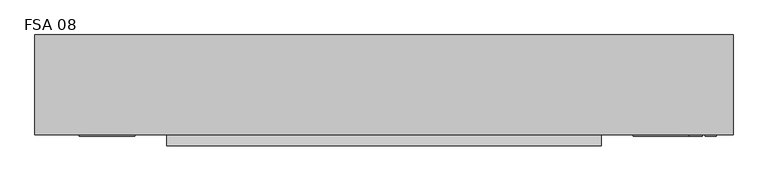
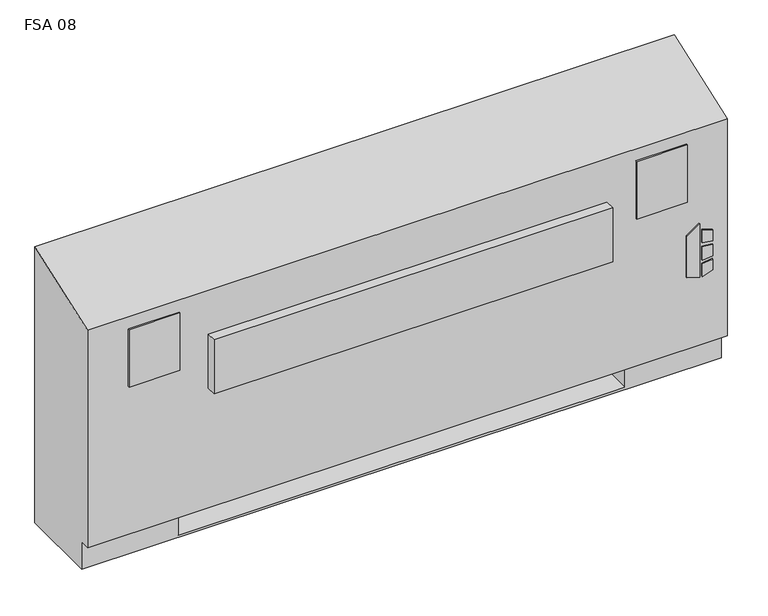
"""IFC4 building model written with IfcOpenShell, lengths in millimetres: proxy geometry, Vertical_Fan_Coil_Unit_-_FSA_-_IEC_-_4-Pipe_FS-FR_LH_2022 : FSA 08."""

import ifcopenshell
import ifcopenshell.guid

model = None  # the IFC model being written
_history = None  # IfcOwnerHistory: only IFC2X3 demands one
_inside = {}  # id of a spatial element -> (the spatial element, [elements in it])
_under = {}  # id of a project, library or spatial element -> (it, [spatial elements below it])
_declared = {}  # id of a project -> (the project, [libraries it declares])
_typed = {}  # id of a type object -> (the type object, [elements of that type])
_made_of = {}  # id of a material, layer set ... -> (it, [elements and type objects made of it])


def new_model(schema):
    """Start an empty IFC model of exactly this schema.

    Asked for "IFC4X3", IfcOpenShell would pick the latest addendum, in which some entities
    have other attributes; the version numbers below select the first issue.
    IFC2X3 requires an IfcOwnerHistory on every rooted entity: one is made here for all.
    """
    global model, _history
    if schema == "IFC4X3":
        model = ifcopenshell.file(schema_version=(4, 3, 0, 0))
    else:
        model = ifcopenshell.file(schema=schema)
    _inside.clear()
    _under.clear()
    _declared.clear()
    _typed.clear()
    _made_of.clear()
    _history = None
    if model.schema == "IFC2X3":
        org = make("IfcOrganization", Name="unknown")
        user = make(
            "IfcPersonAndOrganization",
            ThePerson=make("IfcPerson", FamilyName="unknown"),
            TheOrganization=org,
        )
        app = make(
            "IfcApplication",
            ApplicationDeveloper=org,
            Version="unknown",
            ApplicationFullName="unknown",
            ApplicationIdentifier="unknown",
        )
        _history = make(
            "IfcOwnerHistory",
            OwningUser=user,
            OwningApplication=app,
            ChangeAction="ADDED",
            CreationDate=0,
        )
    return model


def make(cls, **values):
    """One entity of the class cls with the attributes given. An attribute that is None is left unset."""
    return model.create_entity(
        cls, **{name: value for name, value in values.items() if value is not None}
    )


def rooted(cls, **values):
    """An entity with a GlobalId (a new one), such as an element, a storey or a relation."""
    return make(cls, GlobalId=ifcopenshell.guid.new(), OwnerHistory=_history, **values)


def si_unit(unit_type, name, prefix=None):
    """IfcSIUnit, for example si_unit("LENGTHUNIT", "METRE", prefix="MILLI")."""
    return make("IfcSIUnit", UnitType=unit_type, Prefix=prefix, Name=name)


def assignment(units):
    """IfcUnitAssignment: the units of a project."""
    return None if units is None else make("IfcUnitAssignment", Units=units)


def point(xyz):
    """IfcCartesianPoint."""
    return None if xyz is None else make("IfcCartesianPoint", Coordinates=xyz)


def direction(xyz):
    """IfcDirection."""
    return None if xyz is None else make("IfcDirection", DirectionRatios=xyz)


def frame(location, z_axis=None, x_axis=None):
    """IfcAxis2Placement3D, a coordinate frame: its origin and axes. An axis left out is left unset."""
    return make(
        "IfcAxis2Placement3D",
        Location=point(location),
        Axis=direction(z_axis),
        RefDirection=direction(x_axis),
    )


def frame_2d(location, x_axis=None):
    """IfcAxis2Placement2D, a coordinate frame in the plane: its origin and x axis."""
    return make(
        "IfcAxis2Placement2D", Location=point(location), RefDirection=direction(x_axis)
    )


def origin():
    """The frame at (0, 0, 0) with its axes left unset."""
    return frame((0.0, 0.0, 0.0))


def place(relative_to, where):
    """IfcLocalPlacement: puts the frame where relative to a parent placement (None: the world)."""
    return make(
        "IfcLocalPlacement", PlacementRelTo=relative_to, RelativePlacement=where
    )


def context(
    kind, dimensions, precision=None, world=None, true_north=None, identifier=None
):
    """IfcGeometricRepresentationContext, for example the 3D "Model" context."""
    return make(
        "IfcGeometricRepresentationContext",
        ContextIdentifier=identifier,
        ContextType=kind,
        CoordinateSpaceDimension=dimensions,
        Precision=precision,
        WorldCoordinateSystem=world,
        TrueNorth=true_north,
    )


def project(units=None, contexts=None):
    """IfcProject with its units and contexts."""
    return rooted(
        "IfcProject",
        Name="project",
        RepresentationContexts=contexts,
        UnitsInContext=assignment(units),
    )


def spatial(cls, under=None, at=None, **own):
    """A site, building, storey or space (cls), placed at a placement, below another one or the project."""
    s = rooted(cls, ObjectPlacement=at, **own)
    if under is not None:
        _under.setdefault(under.id(), (under, []))[1].append(s)
    return s


def polyline(points):
    """IfcPolyline through the points."""
    return make("IfcPolyline", Points=[point(p) for p in points])


def circle_curve(where, radius):
    """IfcCircle in the frame where."""
    return make("IfcCircle", Position=where, Radius=radius)


def trimmed(basis, trim1, trim2, sense, master):
    """IfcTrimmedCurve: the piece of a basis curve between two trims."""
    return make(
        "IfcTrimmedCurve",
        BasisCurve=basis,
        Trim1=trim1,
        Trim2=trim2,
        SenseAgreement=sense,
        MasterRepresentation=master,
    )


def segment(curve, same_sense, transition):
    """IfcCompositeCurveSegment."""
    return make(
        "IfcCompositeCurveSegment",
        Transition=transition,
        SameSense=same_sense,
        ParentCurve=curve,
    )


def composite_curve(segments, self_intersect=None):
    """IfcCompositeCurve: segments joined end to end."""
    return make("IfcCompositeCurve", Segments=segments, SelfIntersect=self_intersect)


def outline(outer, holes=None, kind="AREA"):
    """IfcArbitraryClosedProfileDef: a profile drawn as a closed curve; with holes, ...WithVoids."""
    if holes is None:
        return make("IfcArbitraryClosedProfileDef", ProfileType=kind, OuterCurve=outer)
    return make(
        "IfcArbitraryProfileDefWithVoids",
        ProfileType=kind,
        OuterCurve=outer,
        InnerCurves=holes,
    )


def extrude(swept, where, along, depth):
    """IfcExtrudedAreaSolid: the profile swept, set in the frame where, extruded along a direction by depth."""
    return make(
        "IfcExtrudedAreaSolid",
        SweptArea=swept,
        Position=where,
        ExtrudedDirection=direction(along),
        Depth=depth,
    )


def shape(context_of_items, identifier, shape_type, items):
    """IfcShapeRepresentation: the items that make up one representation, for example the "Body"."""
    return make(
        "IfcShapeRepresentation",
        ContextOfItems=context_of_items,
        RepresentationIdentifier=identifier,
        RepresentationType=shape_type,
        Items=items,
    )


def source(mapping_origin, context_of_items, identifier, shape_type, items):
    """IfcRepresentationMap: a shape defined once, which mapped items show again and again."""
    return make(
        "IfcRepresentationMap",
        MappingOrigin=mapping_origin,
        MappedRepresentation=shape(context_of_items, identifier, shape_type, items),
    )


def transform(
    local_origin,
    x_axis=None,
    y_axis=None,
    z_axis=None,
    scale=None,
    scale2=None,
    scale3=None,
    uniform=True,
):
    """IfcCartesianTransformationOperator3D, or its non-uniform kind. x_axis, y_axis, z_axis: its Axis1, 2, 3."""
    if uniform:
        return make(
            "IfcCartesianTransformationOperator3D",
            Axis1=direction(x_axis),
            Axis2=direction(y_axis),
            LocalOrigin=point(local_origin),
            Scale=scale,
            Axis3=direction(z_axis),
        )
    return make(
        "IfcCartesianTransformationOperator3DnonUniform",
        Axis1=direction(x_axis),
        Axis2=direction(y_axis),
        LocalOrigin=point(local_origin),
        Scale=scale,
        Axis3=direction(z_axis),
        Scale2=scale2,
        Scale3=scale3,
    )


def mapped(mapping_source, mapping_target):
    """IfcMappedItem: shows the shape of a source again, moved by a transform."""
    return make(
        "IfcMappedItem", MappingSource=mapping_source, MappingTarget=mapping_target
    )


def made_of(thing, what):
    """Note that an element or type object is made of a material, layer set ...; save() writes the relation."""
    if what is not None:
        _made_of.setdefault(what.id(), (what, []))[1].append(thing)
    return thing


def element(
    cls,
    number,
    at=None,
    inside=None,
    cuts=None,
    type_object=None,
    material=None,
    context=None,
    identifier="Body",
    shape_type=None,
    held_by="IfcProductDefinitionShape",
    body=None,
    shapes=None,
    **own,
):
    """One element of the class cls, such as IfcWall. Its Tag is "e" and its number.

    at: its placement. inside: the storey or other place that contains it. cuts: it is an
    opening in that element (IfcRelVoidsElement). A single representation is given by context,
    identifier, shape_type and body (its items); several are given by shapes. held_by: the class
    of the entity that holds the representations. save() writes the other relations.
    """
    e = rooted(cls, Tag="e%d" % number, ObjectPlacement=at, **own)
    if body is not None:
        shapes = [shape(context, identifier, shape_type, body)]
    if shapes is not None:
        e.Representation = make(held_by, Representations=shapes)
    if inside is not None:
        _inside.setdefault(inside.id(), (inside, []))[1].append(e)
    if cuts is not None:
        rooted(
            "IfcRelVoidsElement", RelatingBuildingElement=cuts, RelatedOpeningElement=e
        )
    if type_object is not None:
        _typed.setdefault(type_object.id(), (type_object, []))[1].append(e)
    return made_of(e, material)


def aggregate(whole, parts):
    """IfcRelAggregates: a whole, such as a stair, and the parts it consists of."""
    return rooted("IfcRelAggregates", RelatingObject=whole, RelatedObjects=parts)


def save(model, path):
    """Write the relations noted so far, then the file.

    IfcRelAggregates (storeys below a building ...), IfcRelContainedInSpatialStructure (elements
    in a storey), IfcRelDefinesByType, IfcRelAssociatesMaterial and IfcRelDeclares: one each for
    every whole, place, type object, material and project.
    """
    for whole, parts in _under.values():
        aggregate(whole, parts)
    for where, things in _inside.values():
        rooted(
            "IfcRelContainedInSpatialStructure",
            RelatedElements=things,
            RelatingStructure=where,
        )
    for kind, things in _typed.values():
        rooted("IfcRelDefinesByType", RelatedObjects=things, RelatingType=kind)
    for what, things in _made_of.values():
        rooted("IfcRelAssociatesMaterial", RelatedObjects=things, RelatingMaterial=what)
    for by, libraries in _declared.values():
        rooted("IfcRelDeclares", RelatingContext=by, RelatedDefinitions=libraries)
    model.write(path)


def plane_surface(at):
    """IfcPlane: the flat surface through the origin of the frame at, square to its z axis."""
    return make("IfcPlane", Position=at)


def revolved_surface(curve, axis_point, axis_direction):
    """IfcSurfaceOfRevolution: the curve turned about the line through axis_point along axis_direction."""
    return make(
        "IfcSurfaceOfRevolution",
        SweptCurve=make("IfcArbitraryOpenProfileDef", ProfileType="CURVE", Curve=curve),
        AxisPosition=make("IfcAxis1Placement", Location=point(axis_point), Axis=direction(axis_direction)),
    )


def advanced_brep(points, edges, surfaces, faces):
    """IfcAdvancedBrep: a solid bounded by faces that lie on surfaces and meet in shared edges.

    An edge is (start, end): straight between two places in points (the first is 0);
    or (start, end, curve); or (start, end, curve, False) where it runs against its curve.
    A face is (place in surfaces, loops), or (place, loops, False) where it looks against
    its surface's normal. A loop lists edges by number (the first is 1), with a minus sign
    where the edge is run from its end to its start. The first loop is the outer one.
    """
    corners = [point(p) for p in points]
    vertices = [make("IfcVertexPoint", VertexGeometry=c) for c in corners]
    made = []
    for start, end, *more in edges:
        made.append(
            make(
                "IfcEdgeCurve",
                EdgeStart=vertices[start],
                EdgeEnd=vertices[end],
                EdgeGeometry=more[0] if more else make("IfcPolyline", Points=[corners[start], corners[end]]),
                SameSense=more[1] if len(more) > 1 else True,
            )
        )
    hull = []
    for where, loops, *sense in faces:
        bounds = []
        for j, loop in enumerate(loops):
            ring = [make("IfcOrientedEdge", EdgeElement=made[abs(k) - 1], Orientation=k > 0) for k in loop]
            bounds.append(
                make(
                    "IfcFaceOuterBound" if j == 0 else "IfcFaceBound",
                    Bound=make("IfcEdgeLoop", EdgeList=ring),
                    Orientation=True,
                )
            )
        hull.append(make("IfcAdvancedFace", Bounds=bounds, FaceSurface=surfaces[where], SameSense=sense[0] if sense else True))
    return make("IfcAdvancedBrep", Outer=make("IfcClosedShell", CfsFaces=hull))


def fsa_08_aebe8db0(model_context):
    return source(origin(), model_context, "Body", "SolidModel", [
        extrude(outline(polyline([(263.9480703, 849.3868862), (254.0, 881.5602728), (396.1709244, 881.5602728), (373.1489183, 849.3868862), (263.9480703, 849.3868862)])), frame((0.0, 12.7, 0.0), z_axis=(0.0, 1.0, 0.0), x_axis=(0.0, 0.0, 1.0)), (0.0, 0.0, 1.0), 3.175),
        extrude(outline(polyline([(342.9473557, 888.3186058), (339.7449632, 914.4), (368.9738042, 914.4), (377.0382193, 888.3186058), (342.9473557, 888.3186058)])), frame((0.0, 12.7, 0.0), z_axis=(0.0, 1.0, 0.0), x_axis=(0.0, 0.0, 1.0)), (0.0, 0.0, 1.0), 3.175),
        extrude(outline(polyline([(291.0838288, 914.4), (287.4183279, 888.3186058), (254.0, 888.3186058), (262.6342372, 914.4), (291.0838288, 914.4)])), frame((0.0, 12.7, 0.0), z_axis=(0.0, 1.0, 0.0), x_axis=(0.0, 0.0, 1.0)), (0.0, 0.0, 1.0), 3.175),
        extrude(outline(polyline([(330.3989903, 914.4), (332.6808166, 888.3186058), (296.7432681, 888.3186058), (299.4845331, 914.4), (330.3989903, 914.4)])), frame((0.0, 12.7, 0.0), z_axis=(0.0, 1.0, 0.0), x_axis=(0.0, 0.0, 1.0)), (0.0, 0.0, 1.0), 3.175),
        extrude(outline(polyline([(831.85, 223.266), (831.85, 81.534), (711.2, 81.534), (711.2, 223.266), (831.85, 223.266)])), frame((0.0, 0.0, 327.025), z_axis=(0.0, 0.0, 1.0), x_axis=(1.0, 0.0, 0.0)), (0.0, 0.0, 1.0), 260.35),
        extrude(outline(polyline([(-419.1, 12.7), (-546.1, 12.7), (-546.1, 15.875), (-419.1, 15.875), (-419.1, 12.7)])), frame((0.0, 0.0, 463.55), z_axis=(0.0, 0.0, 1.0), x_axis=(1.0, 0.0, 0.0)), (0.0, 0.0, 1.0), 152.4),
        extrude(outline(polyline([(850.9, 12.7), (723.9, 12.7), (723.9, 15.875), (850.9, 15.875), (850.9, 12.7)])), frame((0.0, 0.0, 463.55), z_axis=(0.0, 0.0, 1.0), x_axis=(1.0, 0.0, 0.0)), (0.0, 0.0, 1.0), 152.4),
        extrude(outline(composite_curve([segment(trimmed(circle_curve(frame_2d((-469.9, 130.175)), 9.525), [point((-479.425, 130.175))], [point((-460.375, 130.175))], False, "CARTESIAN"), True, "CONTINUOUS"), segment(trimmed(circle_curve(frame_2d((-469.9, 130.175)), 9.525), [point((-460.375, 130.175))], [point((-479.425, 130.175))], False, "CARTESIAN"), True, "CONTINUOUS")], self_intersect=False)), frame((0.0, 0.0, 101.6), z_axis=(0.0, 0.0, 1.0), x_axis=(1.0, 0.0, 0.0)), (0.0, 0.0, 1.0), 25.4),
        extrude(outline(polyline([(-571.5, 63.5), (-571.5, 196.85), (-406.4, 196.85), (-406.4, 63.5), (-571.5, 63.5)])), frame((0.0, 0.0, 127.0), z_axis=(0.0, 0.0, 1.0), x_axis=(1.0, 0.0, 0.0)), (0.0, 0.0, 1.0), 50.8),
        extrude(outline(polyline([(650.875, -9.525), (-346.075, -9.525), (-346.075, 15.875), (650.875, 15.875), (650.875, -9.525)])), frame((0.0, 0.0, 389.3009245), z_axis=(0.0, 0.0, 1.0), x_axis=(1.0, 0.0, 0.0)), (0.0, 0.0, 1.0), 142.875),
        extrude(outline(composite_curve([segment(trimmed(circle_curve(frame_2d((109.0168, 457.2)), 7.9375), [point((109.0168, 465.1375))], [point((109.0168, 449.2625))], False, "CARTESIAN"), True, "CONTINUOUS"), segment(trimmed(circle_curve(frame_2d((109.0168, 457.2)), 7.9375), [point((109.0168, 449.2625))], [point((109.0168, 465.1375))], False, "CARTESIAN"), True, "CONTINUOUS")], self_intersect=False)), frame((-457.2, 0.0, 0.0), z_axis=(1.0, 0.0, 0.0), x_axis=(0.0, 1.0, 0.0)), (0.0, 0.0, 1.0), 50.8),
        extrude(outline(composite_curve([segment(trimmed(circle_curve(frame_2d((172.085, 460.0194)), 7.9375), [point((172.085, 467.9569))], [point((172.085, 452.0819))], False, "CARTESIAN"), True, "CONTINUOUS"), segment(trimmed(circle_curve(frame_2d((172.085, 460.0194)), 7.9375), [point((172.085, 452.0819))], [point((172.085, 467.9569))], False, "CARTESIAN"), True, "CONTINUOUS")], self_intersect=False)), frame((-457.2, 0.0, 0.0), z_axis=(1.0, 0.0, 0.0), x_axis=(0.0, 1.0, 0.0)), (0.0, 0.0, 1.0), 50.8),
        extrude(outline(composite_curve([segment(trimmed(circle_curve(frame_2d((53.975, 416.56)), 7.9502), [point((53.975, 424.5102))], [point((53.975, 408.6098))], False, "CARTESIAN"), True, "CONTINUOUS"), segment(trimmed(circle_curve(frame_2d((53.975, 416.56)), 7.9502), [point((53.975, 408.6098))], [point((53.975, 424.5102))], False, "CARTESIAN"), True, "CONTINUOUS")], self_intersect=False)), frame((-457.2, 0.0, 0.0), z_axis=(1.0, 0.0, 0.0), x_axis=(0.0, 1.0, 0.0)), (0.0, 0.0, 1.0), 50.8),
        extrude(outline(composite_curve([segment(trimmed(circle_curve(frame_2d((130.175, 554.99)), 7.9502), [point((130.175, 562.9402))], [point((130.175, 547.0398))], False, "CARTESIAN"), True, "CONTINUOUS"), segment(trimmed(circle_curve(frame_2d((130.175, 554.99)), 7.9502), [point((130.175, 547.0398))], [point((130.175, 562.9402))], False, "CARTESIAN"), True, "CONTINUOUS")], self_intersect=False)), frame((-457.2, 0.0, 0.0), z_axis=(1.0, 0.0, 0.0), x_axis=(0.0, 1.0, 0.0)), (0.0, 0.0, 1.0), 50.8),
        advanced_brep(
        [(-647.7, 244.475, 0.0), (952.5, 244.475, 0.0), (952.5, 41.275, 0.0), (-647.7, 41.275, 0.0), (-647.7, 244.475, 730.25), (952.5, 244.475, 730.25), (711.2, 244.475, 73.025), (939.8, 244.475, 73.025), (939.8, 244.475, 654.05), (711.2, 244.475, 654.05), (711.2, 244.475, 414.8650565), (739.775, 244.475, 414.8650565), (739.775, 244.475, 385.2349435), (711.2, 244.475, 385.2349435), (711.2, 244.475, 287.3375), (739.775, 244.475, 287.3375), (739.775, 244.475, 258.7625), (711.2, 244.475, 258.7625), (711.2, 244.475, 141.2875), (739.775, 244.475, 141.2875), (739.775, 244.475, 112.7125), (711.2, 244.475, 112.7125), (-406.4, 244.475, 654.05), (-635.0, 244.475, 654.05), (-635.0, 244.475, 73.025), (-406.4, 244.475, 73.025), (-406.4, 244.475, 112.7125), (-434.975, 244.475, 112.7125), (-434.975, 244.475, 141.2875), (-406.4, 244.475, 141.2875), (-406.4, 244.475, 258.7625), (-434.975, 244.475, 258.7625), (-434.975, 244.475, 287.3375), (-406.4, 244.475, 287.3375), (-406.4, 244.475, 385.2349435), (-434.975, 244.475, 385.2349435), (-434.975, 244.475, 414.8650565), (-406.4, 244.475, 414.8650565), (729.4626, 244.475, 127.0), (718.3374, 244.475, 127.0), (729.4626, 244.475, 400.05), (718.3374, 244.475, 400.05), (729.4626, 244.475, 273.05), (718.3374, 244.475, 273.05), (-413.5374, 244.475, 127.0), (-424.6626, 244.475, 127.0), (-413.5374, 244.475, 273.05), (-424.6626, 244.475, 273.05), (-413.5374, 244.475, 400.05), (-424.6626, 244.475, 400.05), (-647.7, 41.275, 73.025), (-647.7, 15.875, 73.025), (-647.7, 15.875, 647.7), (952.5, 15.875, 73.025), (952.5, 15.875, 647.7), (952.5, 41.275, 73.025), (-406.4, 41.275, 73.025), (-406.4, 225.425, 73.025), (711.2, 225.425, 73.025), (711.2, 41.275, 73.025), (711.2, 41.275, 6.35), (-406.4, 41.275, 6.35), (711.2, 41.275, 654.05), (939.8, 41.275, 654.05), (939.8, 41.275, 73.025), (711.2, 41.275, 73.025), (-406.4, 41.275, 654.05), (-406.4, 41.275, 73.025), (-635.0, 41.275, 73.025), (-635.0, 41.275, 654.05), (711.2, 225.425, 73.025), (711.2, 238.125, 112.7125), (711.2, 238.125, 141.2875), (711.2, 238.125, 258.7625), (711.2, 238.125, 287.3375), (711.2, 238.125, 385.2349435), (711.2, 238.125, 414.8650565), (-406.4, 225.425, 73.025), (-406.4, 238.125, 414.8650565), (-406.4, 238.125, 385.2349435), (-406.4, 238.125, 287.3375), (-406.4, 238.125, 258.7625), (-406.4, 238.125, 141.2875), (-406.4, 238.125, 112.7125), (-406.4, 225.425, 6.35), (711.2, 225.425, 6.35), (739.775, 238.125, 112.7125), (739.775, 238.125, 141.2875), (718.3374, 238.125, 127.0), (729.4626, 238.125, 127.0), (739.775, 238.125, 258.7625), (739.775, 238.125, 287.3375), (718.3374, 238.125, 273.05), (729.4626, 238.125, 273.05), (739.775, 238.125, 385.2349435), (739.775, 238.125, 414.8650565), (718.3374, 238.125, 400.05), (729.4626, 238.125, 400.05), (-434.975, 238.125, 141.2875), (-434.975, 238.125, 112.7125), (-424.6626, 238.125, 127.0), (-413.5374, 238.125, 127.0), (-434.975, 238.125, 287.3375), (-434.975, 238.125, 258.7625), (-424.6626, 238.125, 273.05), (-413.5374, 238.125, 273.05), (-434.975, 238.125, 414.8650565), (-434.975, 238.125, 385.2349435), (-424.6626, 238.125, 400.05), (-413.5374, 238.125, 400.05)],
        [
            (0, 1),
            (1, 2),
            (2, 3),
            (3, 0),
            (0, 4),
            (4, 5),
            (5, 1),
            (6, 7),
            (7, 8),
            (8, 9),
            (9, 10),
            (10, 11),
            (11, 12),
            (12, 13),
            (13, 14),
            (14, 15),
            (15, 16),
            (16, 17),
            (17, 18),
            (18, 19),
            (19, 20),
            (20, 21),
            (21, 6),
            (22, 23),
            (23, 24),
            (24, 25),
            (25, 26),
            (26, 27),
            (27, 28),
            (28, 29),
            (29, 30),
            (30, 31),
            (31, 32),
            (32, 33),
            (33, 34),
            (34, 35),
            (35, 36),
            (36, 37),
            (37, 22),
            (38, 39, circle_curve(frame((723.9, 244.475, 127.0), z_axis=(0.0, -1.0, 0.0), x_axis=(-1.0, 0.0, 0.0)), 5.5626)),
            (39, 38, circle_curve(frame((723.9, 244.475, 127.0), z_axis=(0.0, -1.0, 0.0), x_axis=(-1.0, 0.0, 0.0)), 5.5626)),
            (40, 41, circle_curve(frame((723.9, 244.475, 400.05), z_axis=(0.0, -1.0, 0.0), x_axis=(-1.0, 0.0, 0.0)), 5.5626)),
            (41, 40, circle_curve(frame((723.9, 244.475, 400.05), z_axis=(0.0, -1.0, 0.0), x_axis=(-1.0, 0.0, 0.0)), 5.5626)),
            (42, 43, circle_curve(frame((723.9, 244.475, 273.05), z_axis=(0.0, -1.0, 0.0), x_axis=(-1.0, 0.0, 0.0)), 5.5626)),
            (43, 42, circle_curve(frame((723.9, 244.475, 273.05), z_axis=(0.0, -1.0, 0.0), x_axis=(-1.0, 0.0, 0.0)), 5.5626)),
            (44, 45, circle_curve(frame((-419.1, 244.475, 127.0), z_axis=(0.0, -1.0, 0.0), x_axis=(-1.0, 0.0, 0.0)), 5.5626)),
            (45, 44, circle_curve(frame((-419.1, 244.475, 127.0), z_axis=(0.0, -1.0, 0.0), x_axis=(-1.0, 0.0, 0.0)), 5.5626)),
            (46, 47, circle_curve(frame((-419.1, 244.475, 273.05), z_axis=(0.0, -1.0, 0.0), x_axis=(-1.0, 0.0, 0.0)), 5.5626)),
            (47, 46, circle_curve(frame((-419.1, 244.475, 273.05), z_axis=(0.0, -1.0, 0.0), x_axis=(-1.0, 0.0, 0.0)), 5.5626)),
            (48, 49, circle_curve(frame((-419.1, 244.475, 400.05), z_axis=(0.0, -1.0, 0.0), x_axis=(-1.0, 0.0, 0.0)), 5.5626)),
            (49, 48, circle_curve(frame((-419.1, 244.475, 400.05), z_axis=(0.0, -1.0, 0.0), x_axis=(-1.0, 0.0, 0.0)), 5.5626)),
            (3, 50),
            (50, 51),
            (51, 52),
            (52, 4),
            (51, 53),
            (53, 54),
            (54, 52),
            (5, 54),
            (53, 55),
            (55, 2),
            (50, 56),
            (56, 57),
            (57, 58),
            (58, 59),
            (59, 55),
            (59, 60),
            (60, 61),
            (61, 56),
            (62, 63),
            (63, 64),
            (64, 65),
            (65, 62),
            (66, 67),
            (67, 68),
            (68, 69),
            (69, 66),
            (65, 70),
            (70, 6),
            (21, 71),
            (71, 72),
            (72, 18),
            (17, 73),
            (73, 74),
            (74, 14),
            (13, 75),
            (75, 76),
            (76, 10),
            (9, 62),
            (64, 7),
            (63, 8),
            (69, 23),
            (22, 66),
            (68, 24),
            (67, 77),
            (77, 25),
            (37, 78),
            (78, 79),
            (79, 34),
            (33, 80),
            (80, 81),
            (81, 30),
            (29, 82),
            (82, 83),
            (83, 26),
            (57, 84),
            (84, 85),
            (85, 58),
            (85, 60),
            (84, 61),
            (71, 86),
            (86, 87),
            (87, 72),
            (88, 89, circle_curve(frame((723.9, 238.125, 127.0), z_axis=(0.0, 1.0, 0.0), x_axis=(-1.0, 0.0, 0.0)), 5.5626)),
            (89, 88, circle_curve(frame((723.9, 238.125, 127.0), z_axis=(0.0, 1.0, 0.0), x_axis=(-1.0, 0.0, 0.0)), 5.5626)),
            (73, 90),
            (90, 91),
            (91, 74),
            (92, 93, circle_curve(frame((723.9, 238.125, 273.05), z_axis=(0.0, 1.0, 0.0), x_axis=(-1.0, 0.0, 0.0)), 5.5626)),
            (93, 92, circle_curve(frame((723.9, 238.125, 273.05), z_axis=(0.0, 1.0, 0.0), x_axis=(-1.0, 0.0, 0.0)), 5.5626)),
            (75, 94),
            (94, 95),
            (95, 76),
            (96, 97, circle_curve(frame((723.9, 238.125, 400.05), z_axis=(0.0, 1.0, 0.0), x_axis=(-1.0, 0.0, 0.0)), 5.5626)),
            (97, 96, circle_curve(frame((723.9, 238.125, 400.05), z_axis=(0.0, 1.0, 0.0), x_axis=(-1.0, 0.0, 0.0)), 5.5626)),
            (98, 99),
            (99, 83),
            (82, 98),
            (100, 101, circle_curve(frame((-419.1, 238.125, 127.0), z_axis=(0.0, 1.0, 0.0), x_axis=(-1.0, 0.0, 0.0)), 5.5626)),
            (101, 100, circle_curve(frame((-419.1, 238.125, 127.0), z_axis=(0.0, 1.0, 0.0), x_axis=(-1.0, 0.0, 0.0)), 5.5626)),
            (102, 103),
            (103, 81),
            (80, 102),
            (104, 105, circle_curve(frame((-419.1, 238.125, 273.05), z_axis=(0.0, 1.0, 0.0), x_axis=(-1.0, 0.0, 0.0)), 5.5626)),
            (105, 104, circle_curve(frame((-419.1, 238.125, 273.05), z_axis=(0.0, 1.0, 0.0), x_axis=(-1.0, 0.0, 0.0)), 5.5626)),
            (106, 107),
            (107, 79),
            (78, 106),
            (108, 109, circle_curve(frame((-419.1, 238.125, 400.05), z_axis=(0.0, 1.0, 0.0), x_axis=(-1.0, 0.0, 0.0)), 5.5626)),
            (109, 108, circle_curve(frame((-419.1, 238.125, 400.05), z_axis=(0.0, 1.0, 0.0), x_axis=(-1.0, 0.0, 0.0)), 5.5626)),
            (87, 19),
            (86, 20),
            (91, 15),
            (90, 16),
            (95, 11),
            (94, 12),
            (28, 98),
            (99, 27),
            (32, 102),
            (103, 31),
            (36, 106),
            (107, 35),
            (88, 39),
            (38, 89),
            (96, 41),
            (40, 97),
            (92, 43),
            (42, 93),
            (100, 45),
            (44, 101),
            (104, 47),
            (46, 105),
            (108, 49),
            (48, 109),
        ],
        [
            plane_surface(frame((-647.7, 244.475, 0.0), z_axis=(0.0, 0.0, -1.0), x_axis=(1.0, 0.0, 0.0))),
            plane_surface(frame((952.5, 244.475, 730.25), z_axis=(0.0, 1.0, 0.0), x_axis=(0.0, 0.0, -1.0))),
            plane_surface(frame((-647.7, 244.475, 730.25), z_axis=(-1.0, 0.0, 0.0), x_axis=(0.0, 0.0, -1.0))),
            plane_surface(frame((-647.7, 15.875, 730.25), z_axis=(0.0, -1.0, 0.0), x_axis=(0.0, 0.0, -1.0))),
            plane_surface(frame((952.5, 15.875, 730.25), z_axis=(1.0, 0.0, 0.0), x_axis=(0.0, 0.0, -1.0))),
            plane_surface(frame((-647.7, 15.875, 73.025), z_axis=(0.0, 0.0, -1.0), x_axis=(1.0, 0.0, 0.0))),
            plane_surface(frame((-647.7, 41.275, 73.025), z_axis=(0.0, -1.0, 0.0), x_axis=(1.0, 0.0, 0.0))),
            plane_surface(frame((711.2, 41.275, 654.05), z_axis=(0.0, 1.0, 0.0), x_axis=(0.0, 0.0, -1.0))),
            plane_surface(frame((711.2, 41.275, 654.05), z_axis=(1.0, 0.0, 0.0), x_axis=(0.0, 1.0, 0.0))),
            plane_surface(frame((711.2, 41.275, 73.025), z_axis=(0.0, 0.0, 1.0), x_axis=(0.0, 1.0, 0.0))),
            plane_surface(frame((939.8, 41.275, 73.025), z_axis=(-1.0, 0.0, 0.0), x_axis=(0.0, 1.0, 0.0))),
            plane_surface(frame((939.8, 41.275, 654.05), z_axis=(0.0, 0.0, -1.0), x_axis=(0.0, 1.0, 0.0))),
            plane_surface(frame((-406.4, 41.275, 654.05), z_axis=(0.0, 0.0, -1.0), x_axis=(0.0, 1.0, 0.0))),
            plane_surface(frame((-635.0, 41.275, 654.05), z_axis=(1.0, 0.0, 0.0), x_axis=(0.0, 1.0, 0.0))),
            plane_surface(frame((-635.0, 41.275, 73.025), z_axis=(0.0, 0.0, 1.0), x_axis=(0.0, 1.0, 0.0))),
            plane_surface(frame((-406.4, 41.275, 73.025), z_axis=(-1.0, 0.0, 0.0), x_axis=(0.0, 1.0, 0.0))),
            plane_surface(frame((711.2, 225.425, 73.025), z_axis=(0.0, -1.0, 0.0), x_axis=(0.0, 0.0, -1.0))),
            plane_surface(frame((711.2, 225.425, 73.025), z_axis=(-1.0, 0.0, 0.0), x_axis=(0.0, -1.0, 0.0))),
            plane_surface(frame((711.2, 225.425, 6.35), z_axis=(0.0, 0.0, 1.0), x_axis=(0.0, -1.0, 0.0))),
            plane_surface(frame((-406.4, 225.425, 6.35), z_axis=(1.0, 0.0, 0.0), x_axis=(0.0, -1.0, 0.0))),
            plane_surface(frame((739.775, 238.125, 141.2875), z_axis=(0.0, -1.0, 0.0), x_axis=(-1.0, 0.0, 0.0))),
            plane_surface(frame((711.2, 244.475, 141.2875), z_axis=(0.0, 0.0, 1.0), x_axis=(0.0, -1.0, 0.0))),
            plane_surface(frame((739.775, 244.475, 141.2875), z_axis=(1.0, 0.0, 0.0), x_axis=(0.0, -1.0, 0.0))),
            plane_surface(frame((739.775, 244.475, 112.7125), z_axis=(0.0, 0.0, -1.0), x_axis=(0.0, -1.0, 0.0))),
            plane_surface(frame((711.2, 244.475, 287.3375), z_axis=(0.0, 0.0, 1.0), x_axis=(0.0, -1.0, 0.0))),
            plane_surface(frame((739.775, 244.475, 287.3375), z_axis=(1.0, 0.0, 0.0), x_axis=(0.0, -1.0, 0.0))),
            plane_surface(frame((739.775, 244.475, 258.7625), z_axis=(0.0, 0.0, -1.0), x_axis=(0.0, -1.0, 0.0))),
            plane_surface(frame((711.2, 244.475, 414.8650565), z_axis=(0.0, 0.0, 1.0), x_axis=(0.0, -1.0, 0.0))),
            plane_surface(frame((739.775, 244.475, 414.8650565), z_axis=(1.0, 0.0, 0.0), x_axis=(0.0, -1.0, 0.0))),
            plane_surface(frame((739.775, 244.475, 385.2349435), z_axis=(0.0, 0.0, -1.0), x_axis=(0.0, -1.0, 0.0))),
            plane_surface(frame((-434.975, 244.475, 141.2875), z_axis=(0.0, 0.0, 1.0), x_axis=(0.0, -1.0, 0.0))),
            plane_surface(frame((-406.4, 244.475, 112.7125), z_axis=(0.0, 0.0, -1.0), x_axis=(0.0, -1.0, 0.0))),
            plane_surface(frame((-434.975, 244.475, 112.7125), z_axis=(-1.0, 0.0, 0.0), x_axis=(0.0, -1.0, 0.0))),
            plane_surface(frame((-434.975, 244.475, 287.3375), z_axis=(0.0, 0.0, 1.0), x_axis=(0.0, -1.0, 0.0))),
            plane_surface(frame((-406.4, 244.475, 258.7625), z_axis=(0.0, 0.0, -1.0), x_axis=(0.0, -1.0, 0.0))),
            plane_surface(frame((-434.975, 244.475, 258.7625), z_axis=(-1.0, 0.0, 0.0), x_axis=(0.0, -1.0, 0.0))),
            plane_surface(frame((-434.975, 244.475, 414.8650565), z_axis=(0.0, 0.0, 1.0), x_axis=(0.0, -1.0, 0.0))),
            plane_surface(frame((-406.4, 244.475, 385.2349435), z_axis=(0.0, 0.0, -1.0), x_axis=(0.0, -1.0, 0.0))),
            plane_surface(frame((-434.975, 244.475, 385.2349435), z_axis=(-1.0, 0.0, 0.0), x_axis=(0.0, -1.0, 0.0))),
            revolved_surface(polyline([(718.3374, 238.125, 127.0), (718.3374, 244.475, 127.0)]), (723.9, 244.475, 127.0), (0.0, -1.0, 0.0)),
            revolved_surface(polyline([(718.3374, 238.125, 400.05), (718.3374, 244.475, 400.05)]), (723.9, 244.475, 400.05), (0.0, -1.0, 0.0)),
            revolved_surface(polyline([(718.3374, 238.125, 273.05), (718.3374, 244.475, 273.05)]), (723.9, 244.475, 273.05), (0.0, -1.0, 0.0)),
            revolved_surface(polyline([(-424.6626, 238.125, 127.0), (-424.6626, 244.475, 127.0)]), (-419.1, 244.475, 127.0), (0.0, -1.0, 0.0)),
            revolved_surface(polyline([(-424.6626, 238.125, 273.05), (-424.6626, 244.475, 273.05)]), (-419.1, 244.475, 273.05), (0.0, -1.0, 0.0)),
            revolved_surface(polyline([(-424.6626, 238.125, 400.05), (-424.6626, 244.475, 400.05)]), (-419.1, 244.475, 400.05), (0.0, -1.0, 0.0)),
            plane_surface(frame((-647.7, 244.475, 730.25), z_axis=(0.0, -0.33964446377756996, 0.9405538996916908), x_axis=(1.0, 0.0, 0.0))),
        ],
        [
            (0, [[1, 2, 3, 4]]),
            (1, [[-1, 5, 6, 7], [8, 9, 10, 11, 12, 13, 14, 15, 16, 17, 18, 19, 20, 21, 22, 23], [24, 25, 26, 27, 28, 29, 30, 31, 32, 33, 34, 35, 36, 37, 38, 39], [40, 41], [42, 43], [44, 45], [46, 47], [48, 49], [50, 51]]),
            (2, [[-5, -4, 52, 53, 54, 55]]),
            (3, [[56, 57, 58, -54]]),
            (4, [[-7, 59, -57, 60, 61, -2]]),
            (5, [[-53, 62, 63, 64, 65, 66, -60, -56]]),
            (6, [[-3, -61, -66, 67, 68, 69, -62, -52]]),
            (7, [[70, 71, 72, 73]]),
            (7, [[74, 75, 76, 77]]),
            (8, [[-73, 78, 79, -23, 80, 81, 82, -19, 83, 84, 85, -15, 86, 87, 88, -11, 89]]),
            (9, [[-72, 90, -8, -79, -78]]),
            (10, [[-71, 91, -9, -90]]),
            (11, [[-70, -89, -10, -91]]),
            (12, [[-77, 92, -24, 93]]),
            (13, [[-76, 94, -25, -92]]),
            (14, [[-75, 95, 96, -26, -94]]),
            (15, [[-74, -93, -39, 97, 98, 99, -35, 100, 101, 102, -31, 103, 104, 105, -27, -96, -95]]),
            (16, [[-64, 106, 107, 108]]),
            (17, [[-108, 109, -67, -65]]),
            (18, [[-107, 110, -68, -109]]),
            (19, [[-106, -63, -69, -110]]),
            (20, [[111, 112, 113, -81], [114, 115]]),
            (20, [[116, 117, 118, -84], [119, 120]]),
            (20, [[121, 122, 123, -87], [124, 125]]),
            (20, [[126, 127, -104, 128], [129, 130]]),
            (20, [[131, 132, -101, 133], [134, 135]]),
            (20, [[136, 137, -98, 138], [139, 140]]),
            (21, [[-113, 141, -20, -82]]),
            (22, [[-112, 142, -21, -141]]),
            (23, [[-111, -80, -22, -142]]),
            (24, [[-118, 143, -16, -85]]),
            (25, [[-117, 144, -17, -143]]),
            (26, [[-116, -83, -18, -144]]),
            (27, [[-123, 145, -12, -88]]),
            (28, [[-122, 146, -13, -145]]),
            (29, [[-121, -86, -14, -146]]),
            (30, [[-128, -103, -30, 147]]),
            (31, [[-127, 148, -28, -105]]),
            (32, [[-126, -147, -29, -148]]),
            (33, [[-133, -100, -34, 149]]),
            (34, [[-132, 150, -32, -102]]),
            (35, [[-131, -149, -33, -150]]),
            (36, [[-138, -97, -38, 151]]),
            (37, [[-137, 152, -36, -99]]),
            (38, [[-136, -151, -37, -152]]),
            (39, [[153, -40, 154, -114]]),
            (39, [[-153, -115, -154, -41]]),
            (40, [[155, -42, 156, -124]]),
            (40, [[-155, -125, -156, -43]]),
            (41, [[157, -44, 158, -119]]),
            (41, [[-157, -120, -158, -45]]),
            (42, [[159, -46, 160, -129]]),
            (42, [[-159, -130, -160, -47]]),
            (43, [[161, -48, 162, -134]]),
            (43, [[-161, -135, -162, -49]]),
            (44, [[163, -50, 164, -139]]),
            (44, [[-163, -140, -164, -51]]),
            (45, [[-6, -55, -58, -59]]),
        ],
    ),
    ])


if __name__ == "__main__":
    model = new_model("IFC4")
    model_context = context("Model", 3, world=origin())
    ifc_project = project(units=[si_unit("LENGTHUNIT", "METRE", prefix="MILLI")], contexts=[model_context])
    site = spatial("IfcSite", under=ifc_project)
    building = spatial("IfcBuilding", under=site)
    placement = place(None, origin())
    fsa_08_shape = fsa_08_aebe8db0(model_context)
    element("IfcBuildingElementProxy", 1, Name="Vertical_Fan_Coil_Unit_-_FSA_-_IEC_-_4-Pipe_FS-FR_LH_2022 : FSA 08", ObjectType="Vertical_Fan_Coil_Unit_-_FSA_-_IEC_-_4-Pipe_FS-FR_LH_2022 : FSA 08", at=placement, inside=building, context=model_context, shape_type="MappedRepresentation", body=[
        mapped(fsa_08_shape, transform((0.0, 0.0, 0.0), x_axis=(1.0, 0.0, 0.0), y_axis=(0.0, 1.0, 0.0), z_axis=(0.0, 0.0, 1.0))),
    ])
    save(model, "model.ifc")
